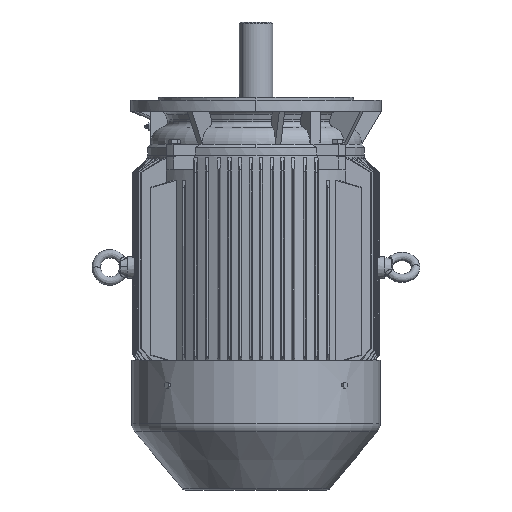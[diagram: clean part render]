
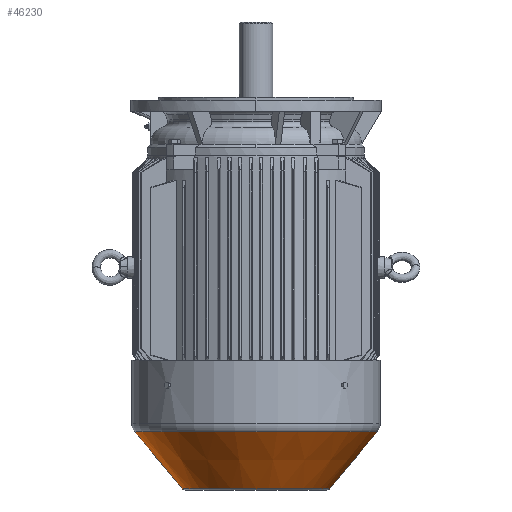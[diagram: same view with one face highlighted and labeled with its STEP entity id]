
A CAD part, front view. The second image highlights one B-rep face of the part: STEP entity #46230.
In plain terms, the highlighted conical face has half-angle 40 degrees and reference radius 132.173 mm.
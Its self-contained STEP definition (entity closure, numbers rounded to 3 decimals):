
#711 = CIRCLE ( 'NONE', #28952, 217.853 ) ;
#713 = CIRCLE ( 'NONE', #28953, 132.173 ) ;
#905 = LINE ( 'NONE', #40525, #909 ) ;
#907 = LINE ( 'NONE', #40557, #913 ) ;
#909 = VECTOR ( 'NONE', #40541, 1000. ) ;
#913 = VECTOR ( 'NONE', #40560, 1000. ) ;
#17411 = CARTESIAN_POINT ( 'NONE',  ( 128.301, -217.853, 0. ) ) ;
#17441 = CARTESIAN_POINT ( 'NONE',  ( 128.301, 217.853, 0. ) ) ;
#17459 = CARTESIAN_POINT ( 'NONE',  ( 230.41, -132.173, 0. ) ) ;
#17471 = CARTESIAN_POINT ( 'NONE',  ( 230.41, 132.173, 0. ) ) ;
#28577 = AXIS2_PLACEMENT_3D ( 'NONE', #88448, #88442, #88434 ) ;
#28952 = AXIS2_PLACEMENT_3D ( 'NONE', #48243, #48245, #48247 ) ;
#28953 = AXIS2_PLACEMENT_3D ( 'NONE', #48251, #48253, #48255 ) ;
#30194 = EDGE_LOOP ( 'NONE', ( #77378, #77380, #77379, #77382 ) ) ;
#40525 = CARTESIAN_POINT ( 'NONE',  ( 230.41, -132.173, 0. ) ) ;
#40541 = DIRECTION ( 'NONE',  ( -0.766, -0.643, 0. ) ) ;
#40557 = CARTESIAN_POINT ( 'NONE',  ( 230.41, 132.173, 0. ) ) ;
#40560 = DIRECTION ( 'NONE',  ( -0.766, 0.643, 0. ) ) ;
#44601 = VERTEX_POINT ( 'NONE', #17411 ) ;
#44610 = VERTEX_POINT ( 'NONE', #17441 ) ;
#44612 = VERTEX_POINT ( 'NONE', #17459 ) ;
#44621 = VERTEX_POINT ( 'NONE', #17471 ) ;
#46230 = ADVANCED_FACE ( 'NONE', ( #69787 ), #69794, .T. ) ;
#48243 = CARTESIAN_POINT ( 'NONE',  ( 128.301, 0., 0. ) ) ;
#48245 = DIRECTION ( 'NONE',  ( -1., 0., 0. ) ) ;
#48247 = DIRECTION ( 'NONE',  ( 0., -1., 0. ) ) ;
#48251 = CARTESIAN_POINT ( 'NONE',  ( 230.41, 0., 0. ) ) ;
#48253 = DIRECTION ( 'NONE',  ( -1., 0., 0. ) ) ;
#48255 = DIRECTION ( 'NONE',  ( 0., -1., 0. ) ) ;
#66302 = EDGE_CURVE ( 'NONE', #44610, #44601, #711, .T. ) ;
#66303 = EDGE_CURVE ( 'NONE', #44621, #44612, #713, .T. ) ;
#66382 = EDGE_CURVE ( 'NONE', #44612, #44601, #905, .T. ) ;
#66383 = EDGE_CURVE ( 'NONE', #44621, #44610, #907, .T. ) ;
#69787 = FACE_OUTER_BOUND ( 'NONE', #30194, .T. ) ;
#69794 = CONICAL_SURFACE ( 'NONE', #28577, 132.173, 0.698 ) ;
#77378 = ORIENTED_EDGE ( 'NONE', *, *, #66383, .F. ) ;
#77379 = ORIENTED_EDGE ( 'NONE', *, *, #66382, .T. ) ;
#77380 = ORIENTED_EDGE ( 'NONE', *, *, #66303, .T. ) ;
#77382 = ORIENTED_EDGE ( 'NONE', *, *, #66302, .F. ) ;
#88434 = DIRECTION ( 'NONE',  ( 0., -1., 0. ) ) ;
#88442 = DIRECTION ( 'NONE',  ( -1., 0., 0. ) ) ;
#88448 = CARTESIAN_POINT ( 'NONE',  ( 230.41, 0., 0. ) ) ;
